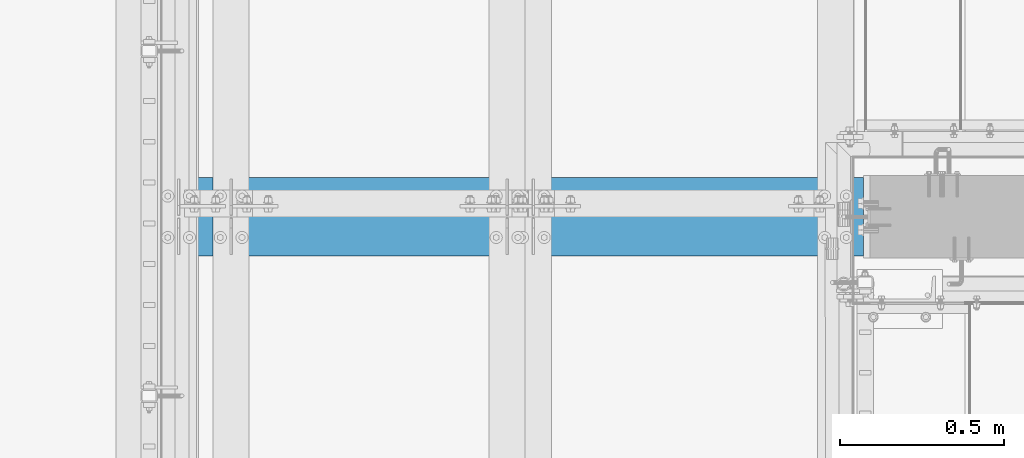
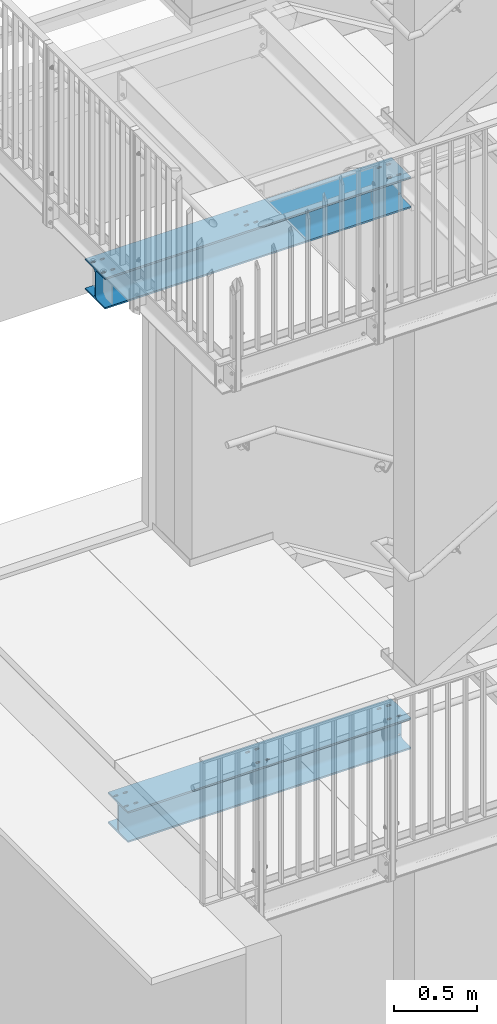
# One storey, part 27 of 410: 2 beams, 28 openings.
"""IFC2X3 building model written with IfcOpenShell, lengths in millimetres."""

from ifc_helpers import new_model, entity, si_unit, converted_unit, point, frame, frame_2d, origin, origin_with_axes, origin_2d, origin_2d_with_axis, place, context, project, spatial, circle_curve, line_curve, trimmed, segment, composite_curve, circle, i_section, outline, extrude, material, element, save


model = new_model("IFC2X3")

# Units and contexts
model_context = context("Model", 3, precision=1e-09, world=origin_with_axes())
ifc_project = project(units=[si_unit("LENGTHUNIT", "METRE", prefix="MILLI"), si_unit("AREAUNIT", "SQUARE_METRE"), si_unit("VOLUMEUNIT", "CUBIC_METRE"), converted_unit("PLANEANGLEUNIT", "DEGREE", entity("IfcPlaneAngleMeasure", 0.01745329), si_unit("PLANEANGLEUNIT", "RADIAN"), dimensions=[0, 0, 0, 0, 0, 0, 0])], contexts=[model_context])

# Site, building, storey
site_placement = place(None, origin_with_axes())
site = spatial("IfcSite", under=ifc_project, at=site_placement, Name="mKR Teilneubau & Sanierung BA1 - Ostfildern", CompositionType="ELEMENT")
building_placement = place(site_placement, origin_with_axes())
building = spatial("IfcBuilding", under=site, at=building_placement, Name="Struktur 1", CompositionType="ELEMENT")
storey_placement = place(building_placement, origin_with_axes())
storey = spatial("IfcBuildingStorey", under=building, at=storey_placement, Name="Default Storey", CompositionType="ELEMENT", Elevation=0.0)

# Beam, openings
ifc_material = material(Name="S235JR")
beam_1_placement = place(None, frame((-1725.0, 16980.0, 3605.0), z_axis=(1.0, 0.0, 0.0), x_axis=(0.0, 1.0, 0.0)))
beam_1 = element("IfcBeam", 1, at=beam_1_placement, inside=storey, material=ifc_material, Name="-", ObjectType="-", context=model_context, shape_type="SweptSolid", body=[
    extrude(i_section(OverallWidth=240.0, OverallDepth=230.0, WebThickness=7.5, FlangeThickness=12.0, FilletRadius=21.0, at=origin_2d()), origin(), (0.0, 0.0, -1.0), 2139.9985317),
])
opening_1_placement = place(beam_1_placement, frame((63.0, 102.5, -2051.9985317), z_axis=(0.0, 1.0, 0.0), x_axis=(0.0, 0.0, 1.0)))
element("IfcOpeningElement", 2, at=opening_1_placement, cuts=beam_1, ObjectType="Opening", context=model_context, shape_type="SweptSolid", body=[
    extrude(outline(composite_curve([segment(trimmed(line_curve((-8.0, -7.001), (1.0, 0.0), 16.0), [point((-8.0, -7.001))], [point((8.0, -7.001))], True, "CARTESIAN"), True, "CONTINUOUS"), segment(trimmed(circle_curve(frame_2d((8.0, 0.0), x_axis=(1.0, 0.0)), 7.001), [point((8.0, -7.001))], [point((8.0, 7.001))], True, "CARTESIAN"), True, "CONTINUOUS"), segment(trimmed(line_curve((8.0, 7.001), (-1.0, 0.0), 16.0), [point((8.0, 7.001))], [point((-8.0, 7.001))], True, "CARTESIAN"), True, "CONTINUOUS"), segment(trimmed(circle_curve(frame_2d((-8.0, 0.0), x_axis=(1.0, 0.0)), 7.001), [point((-8.0, 7.001))], [point((-8.0, -7.001))], True, "CARTESIAN"), True, "CONTINUOUS")], self_intersect=False)), origin(), (0.0, 0.0, 1.0), 13.0),
])
opening_2_placement = place(beam_1_placement, frame((-63.0, 102.5, -1117.9985317), z_axis=(0.0, 1.0, 0.0), x_axis=(0.0, 0.0, 1.0)))
element("IfcOpeningElement", 3, at=opening_2_placement, cuts=beam_1, ObjectType="Opening", context=model_context, shape_type="SweptSolid", body=[
    extrude(outline(composite_curve([segment(trimmed(line_curve((-8.0, -7.001), (1.0, 0.0), 16.0), [point((-8.0, -7.001))], [point((8.0, -7.001))], True, "CARTESIAN"), True, "CONTINUOUS"), segment(trimmed(circle_curve(frame_2d((8.0, 0.0), x_axis=(1.0, 0.0)), 7.001), [point((8.0, -7.001))], [point((8.0, 7.001))], True, "CARTESIAN"), True, "CONTINUOUS"), segment(trimmed(line_curve((8.0, 7.001), (-1.0, 0.0), 16.0), [point((8.0, 7.001))], [point((-8.0, 7.001))], True, "CARTESIAN"), True, "CONTINUOUS"), segment(trimmed(circle_curve(frame_2d((-8.0, 0.0), x_axis=(1.0, 0.0)), 7.001), [point((-8.0, 7.001))], [point((-8.0, -7.001))], True, "CARTESIAN"), True, "CONTINUOUS")], self_intersect=False)), origin(), (0.0, 0.0, 1.0), 13.0),
])
opening_3_placement = place(beam_1_placement, frame((-63.0, 102.5, -117.9985317), z_axis=(0.0, 1.0, 0.0), x_axis=(0.0, 0.0, 1.0)))
element("IfcOpeningElement", 4, at=opening_3_placement, cuts=beam_1, ObjectType="Opening", context=model_context, shape_type="SweptSolid", body=[
    extrude(outline(composite_curve([segment(trimmed(line_curve((-8.0, -7.001), (1.0, 0.0), 16.0), [point((-8.0, -7.001))], [point((8.0, -7.001))], True, "CARTESIAN"), True, "CONTINUOUS"), segment(trimmed(circle_curve(frame_2d((8.0, 0.0), x_axis=(1.0, 0.0)), 7.001), [point((8.0, -7.001))], [point((8.0, 7.001))], True, "CARTESIAN"), True, "CONTINUOUS"), segment(trimmed(line_curve((8.0, 7.001), (-1.0, 0.0), 16.0), [point((8.0, 7.001))], [point((-8.0, 7.001))], True, "CARTESIAN"), True, "CONTINUOUS"), segment(trimmed(circle_curve(frame_2d((-8.0, 0.0), x_axis=(1.0, 0.0)), 7.001), [point((-8.0, 7.001))], [point((-8.0, -7.001))], True, "CARTESIAN"), True, "CONTINUOUS")], self_intersect=False)), origin(), (0.0, 0.0, 1.0), 13.0),
])
opening_4_placement = place(beam_1_placement, frame((63.0, 102.5, -51.9985317), z_axis=(0.0, 1.0, 0.0), x_axis=(0.0, 0.0, 1.0)))
element("IfcOpeningElement", 5, at=opening_4_placement, cuts=beam_1, ObjectType="Opening", context=model_context, shape_type="SweptSolid", body=[
    extrude(outline(composite_curve([segment(trimmed(line_curve((-8.0, -7.001), (1.0, 0.0), 16.0), [point((-8.0, -7.001))], [point((8.0, -7.001))], True, "CARTESIAN"), True, "CONTINUOUS"), segment(trimmed(circle_curve(frame_2d((8.0, 0.0), x_axis=(1.0, 0.0)), 7.001), [point((8.0, -7.001))], [point((8.0, 7.001))], True, "CARTESIAN"), True, "CONTINUOUS"), segment(trimmed(line_curve((8.0, 7.001), (-1.0, 0.0), 16.0), [point((8.0, 7.001))], [point((-8.0, 7.001))], True, "CARTESIAN"), True, "CONTINUOUS"), segment(trimmed(circle_curve(frame_2d((-8.0, 0.0), x_axis=(1.0, 0.0)), 7.001), [point((-8.0, 7.001))], [point((-8.0, -7.001))], True, "CARTESIAN"), True, "CONTINUOUS")], self_intersect=False)), origin(), (0.0, 0.0, 1.0), 13.0),
])
opening_5_placement = place(beam_1_placement, frame((63.0, 102.5, -117.9985317), z_axis=(0.0, 1.0, 0.0), x_axis=(0.0, 0.0, 1.0)))
element("IfcOpeningElement", 6, at=opening_5_placement, cuts=beam_1, ObjectType="Opening", context=model_context, shape_type="SweptSolid", body=[
    extrude(outline(composite_curve([segment(trimmed(line_curve((-8.0, -7.001), (1.0, 0.0), 16.0), [point((-8.0, -7.001))], [point((8.0, -7.001))], True, "CARTESIAN"), True, "CONTINUOUS"), segment(trimmed(circle_curve(frame_2d((8.0, 0.0), x_axis=(1.0, 0.0)), 7.001), [point((8.0, -7.001))], [point((8.0, 7.001))], True, "CARTESIAN"), True, "CONTINUOUS"), segment(trimmed(line_curve((8.0, 7.001), (-1.0, 0.0), 16.0), [point((8.0, 7.001))], [point((-8.0, 7.001))], True, "CARTESIAN"), True, "CONTINUOUS"), segment(trimmed(circle_curve(frame_2d((-8.0, 0.0), x_axis=(1.0, 0.0)), 7.001), [point((-8.0, 7.001))], [point((-8.0, -7.001))], True, "CARTESIAN"), True, "CONTINUOUS")], self_intersect=False)), origin(), (0.0, 0.0, 1.0), 13.0),
])
opening_6_placement = place(beam_1_placement, frame((-63.0, 102.5, -2051.9985317), z_axis=(0.0, 1.0, 0.0), x_axis=(0.0, 0.0, 1.0)))
element("IfcOpeningElement", 7, at=opening_6_placement, cuts=beam_1, ObjectType="Opening", context=model_context, shape_type="SweptSolid", body=[
    extrude(outline(composite_curve([segment(trimmed(line_curve((-8.0, -7.001), (1.0, 0.0), 16.0), [point((-8.0, -7.001))], [point((8.0, -7.001))], True, "CARTESIAN"), True, "CONTINUOUS"), segment(trimmed(circle_curve(frame_2d((8.0, 0.0), x_axis=(1.0, 0.0)), 7.001), [point((8.0, -7.001))], [point((8.0, 7.001))], True, "CARTESIAN"), True, "CONTINUOUS"), segment(trimmed(line_curve((8.0, 7.001), (-1.0, 0.0), 16.0), [point((8.0, 7.001))], [point((-8.0, 7.001))], True, "CARTESIAN"), True, "CONTINUOUS"), segment(trimmed(circle_curve(frame_2d((-8.0, 0.0), x_axis=(1.0, 0.0)), 7.001), [point((-8.0, 7.001))], [point((-8.0, -7.001))], True, "CARTESIAN"), True, "CONTINUOUS")], self_intersect=False)), origin(), (0.0, 0.0, 1.0), 13.0),
])
opening_7_placement = place(beam_1_placement, frame((63.0, 102.5, -2117.9985317), z_axis=(0.0, 1.0, 0.0), x_axis=(0.0, 0.0, 1.0)))
element("IfcOpeningElement", 8, at=opening_7_placement, cuts=beam_1, ObjectType="Opening", context=model_context, shape_type="SweptSolid", body=[
    extrude(outline(composite_curve([segment(trimmed(line_curve((-8.0, -7.001), (1.0, 0.0), 16.0), [point((-8.0, -7.001))], [point((8.0, -7.001))], True, "CARTESIAN"), True, "CONTINUOUS"), segment(trimmed(circle_curve(frame_2d((8.0, 0.0), x_axis=(1.0, 0.0)), 7.001), [point((8.0, -7.001))], [point((8.0, 7.001))], True, "CARTESIAN"), True, "CONTINUOUS"), segment(trimmed(line_curve((8.0, 7.001), (-1.0, 0.0), 16.0), [point((8.0, 7.001))], [point((-8.0, 7.001))], True, "CARTESIAN"), True, "CONTINUOUS"), segment(trimmed(circle_curve(frame_2d((-8.0, 0.0), x_axis=(1.0, 0.0)), 7.001), [point((-8.0, 7.001))], [point((-8.0, -7.001))], True, "CARTESIAN"), True, "CONTINUOUS")], self_intersect=False)), origin(), (0.0, 0.0, 1.0), 13.0),
])
opening_8_placement = place(beam_1_placement, frame((-63.0, 102.5, -1051.9985317), z_axis=(0.0, 1.0, 0.0), x_axis=(0.0, 0.0, 1.0)))
element("IfcOpeningElement", 9, at=opening_8_placement, cuts=beam_1, ObjectType="Opening", context=model_context, shape_type="SweptSolid", body=[
    extrude(outline(composite_curve([segment(trimmed(line_curve((-8.0, -7.001), (1.0, 0.0), 16.0), [point((-8.0, -7.001))], [point((8.0, -7.001))], True, "CARTESIAN"), True, "CONTINUOUS"), segment(trimmed(circle_curve(frame_2d((8.0, 0.0), x_axis=(1.0, 0.0)), 7.001), [point((8.0, -7.001))], [point((8.0, 7.001))], True, "CARTESIAN"), True, "CONTINUOUS"), segment(trimmed(line_curve((8.0, 7.001), (-1.0, 0.0), 16.0), [point((8.0, 7.001))], [point((-8.0, 7.001))], True, "CARTESIAN"), True, "CONTINUOUS"), segment(trimmed(circle_curve(frame_2d((-8.0, 0.0), x_axis=(1.0, 0.0)), 7.001), [point((-8.0, 7.001))], [point((-8.0, -7.001))], True, "CARTESIAN"), True, "CONTINUOUS")], self_intersect=False)), origin(), (0.0, 0.0, 1.0), 13.0),
])
opening_9_placement = place(beam_1_placement, frame((-63.0, 102.5, -51.9985317), z_axis=(0.0, 1.0, 0.0), x_axis=(0.0, 0.0, 1.0)))
element("IfcOpeningElement", 10, at=opening_9_placement, cuts=beam_1, ObjectType="Opening", context=model_context, shape_type="SweptSolid", body=[
    extrude(outline(composite_curve([segment(trimmed(line_curve((-8.0, -7.001), (1.0, 0.0), 16.0), [point((-8.0, -7.001))], [point((8.0, -7.001))], True, "CARTESIAN"), True, "CONTINUOUS"), segment(trimmed(circle_curve(frame_2d((8.0, 0.0), x_axis=(1.0, 0.0)), 7.001), [point((8.0, -7.001))], [point((8.0, 7.001))], True, "CARTESIAN"), True, "CONTINUOUS"), segment(trimmed(line_curve((8.0, 7.001), (-1.0, 0.0), 16.0), [point((8.0, 7.001))], [point((-8.0, 7.001))], True, "CARTESIAN"), True, "CONTINUOUS"), segment(trimmed(circle_curve(frame_2d((-8.0, 0.0), x_axis=(1.0, 0.0)), 7.001), [point((-8.0, 7.001))], [point((-8.0, -7.001))], True, "CARTESIAN"), True, "CONTINUOUS")], self_intersect=False)), origin(), (0.0, 0.0, 1.0), 13.0),
])
opening_10_placement = place(beam_1_placement, frame((63.0, 102.5, -1117.9985317), z_axis=(0.0, 1.0, 0.0), x_axis=(0.0, 0.0, 1.0)))
element("IfcOpeningElement", 11, at=opening_10_placement, cuts=beam_1, ObjectType="Opening", context=model_context, shape_type="SweptSolid", body=[
    extrude(outline(composite_curve([segment(trimmed(line_curve((-8.0, -7.001), (1.0, 0.0), 16.0), [point((-8.0, -7.001))], [point((8.0, -7.001))], True, "CARTESIAN"), True, "CONTINUOUS"), segment(trimmed(circle_curve(frame_2d((8.0, 0.0), x_axis=(1.0, 0.0)), 7.001), [point((8.0, -7.001))], [point((8.0, 7.001))], True, "CARTESIAN"), True, "CONTINUOUS"), segment(trimmed(line_curve((8.0, 7.001), (-1.0, 0.0), 16.0), [point((8.0, 7.001))], [point((-8.0, 7.001))], True, "CARTESIAN"), True, "CONTINUOUS"), segment(trimmed(circle_curve(frame_2d((-8.0, 0.0), x_axis=(1.0, 0.0)), 7.001), [point((-8.0, 7.001))], [point((-8.0, -7.001))], True, "CARTESIAN"), True, "CONTINUOUS")], self_intersect=False)), origin(), (0.0, 0.0, 1.0), 13.0),
])
opening_11_placement = place(beam_1_placement, frame((63.0, 102.5, -1051.9985317), z_axis=(0.0, 1.0, 0.0), x_axis=(0.0, 0.0, 1.0)))
element("IfcOpeningElement", 12, at=opening_11_placement, cuts=beam_1, ObjectType="Opening", context=model_context, shape_type="SweptSolid", body=[
    extrude(outline(composite_curve([segment(trimmed(line_curve((-8.0, -7.001), (1.0, 0.0), 16.0), [point((-8.0, -7.001))], [point((8.0, -7.001))], True, "CARTESIAN"), True, "CONTINUOUS"), segment(trimmed(circle_curve(frame_2d((8.0, 0.0), x_axis=(1.0, 0.0)), 7.001), [point((8.0, -7.001))], [point((8.0, 7.001))], True, "CARTESIAN"), True, "CONTINUOUS"), segment(trimmed(line_curve((8.0, 7.001), (-1.0, 0.0), 16.0), [point((8.0, 7.001))], [point((-8.0, 7.001))], True, "CARTESIAN"), True, "CONTINUOUS"), segment(trimmed(circle_curve(frame_2d((-8.0, 0.0), x_axis=(1.0, 0.0)), 7.001), [point((-8.0, 7.001))], [point((-8.0, -7.001))], True, "CARTESIAN"), True, "CONTINUOUS")], self_intersect=False)), origin(), (0.0, 0.0, 1.0), 13.0),
])
opening_12_placement = place(beam_1_placement, frame((-63.0, 102.5, -2117.9985317), z_axis=(0.0, 1.0, 0.0), x_axis=(0.0, 0.0, 1.0)))
element("IfcOpeningElement", 13, at=opening_12_placement, cuts=beam_1, ObjectType="Opening", context=model_context, shape_type="SweptSolid", body=[
    extrude(outline(composite_curve([segment(trimmed(line_curve((-8.0, -7.001), (1.0, 0.0), 16.0), [point((-8.0, -7.001))], [point((8.0, -7.001))], True, "CARTESIAN"), True, "CONTINUOUS"), segment(trimmed(circle_curve(frame_2d((8.0, 0.0), x_axis=(1.0, 0.0)), 7.001), [point((8.0, -7.001))], [point((8.0, 7.001))], True, "CARTESIAN"), True, "CONTINUOUS"), segment(trimmed(line_curve((8.0, 7.001), (-1.0, 0.0), 16.0), [point((8.0, 7.001))], [point((-8.0, 7.001))], True, "CARTESIAN"), True, "CONTINUOUS"), segment(trimmed(circle_curve(frame_2d((-8.0, 0.0), x_axis=(1.0, 0.0)), 7.001), [point((-8.0, 7.001))], [point((-8.0, -7.001))], True, "CARTESIAN"), True, "CONTINUOUS")], self_intersect=False)), origin(), (0.0, 0.0, 1.0), 13.0),
])
opening_13_placement = place(beam_1_placement, frame((-4.25, 73.0, -15.0), z_axis=(1.0, 0.0, 0.0), x_axis=(0.0, 0.0, -1.0)))
element("IfcOpeningElement", 14, at=opening_13_placement, cuts=beam_1, ObjectType="Opening", context=model_context, shape_type="SweptSolid", body=[
    extrude(circle(Radius=7.001, at=origin_2d_with_axis()), origin(), (0.0, 0.0, 1.0), 8.5),
])
opening_14_placement = place(beam_1_placement, frame((-4.25, -73.0, -15.0), z_axis=(1.0, 0.0, 0.0), x_axis=(0.0, 0.0, -1.0)))
element("IfcOpeningElement", 15, at=opening_14_placement, cuts=beam_1, ObjectType="Opening", context=model_context, shape_type="SweptSolid", body=[
    extrude(circle(Radius=7.001, at=origin_2d_with_axis()), origin(), (0.0, 0.0, 1.0), 8.5),
])

beam_2_placement = place(None, frame((-1725.0, 16980.0, -395.0), z_axis=(1.0, 0.0, 0.0), x_axis=(0.0, 1.0, 0.0)))
beam_2 = element("IfcBeam", 16, at=beam_2_placement, inside=storey, material=ifc_material, Name="-", ObjectType="-", context=model_context, shape_type="SweptSolid", body=[
    extrude(i_section(OverallWidth=240.0, OverallDepth=230.0, WebThickness=7.5, FlangeThickness=12.0, FilletRadius=21.0, at=origin_2d()), origin(), (0.0, 0.0, -1.0), 1979.9985317),
])
opening_15_placement = place(beam_2_placement, frame((63.0, 102.5, -51.9985317), z_axis=(0.0, 1.0, 0.0), x_axis=(0.0, 0.0, 1.0)))
element("IfcOpeningElement", 17, at=opening_15_placement, cuts=beam_2, ObjectType="Opening", context=model_context, shape_type="SweptSolid", body=[
    extrude(outline(composite_curve([segment(trimmed(line_curve((-8.0, -7.001), (1.0, 0.0), 16.0), [point((-8.0, -7.001))], [point((8.0, -7.001))], True, "CARTESIAN"), True, "CONTINUOUS"), segment(trimmed(circle_curve(frame_2d((8.0, 0.0), x_axis=(1.0, 0.0)), 7.001), [point((8.0, -7.001))], [point((8.0, 7.001))], True, "CARTESIAN"), True, "CONTINUOUS"), segment(trimmed(line_curve((8.0, 7.001), (-1.0, 0.0), 16.0), [point((8.0, 7.001))], [point((-8.0, 7.001))], True, "CARTESIAN"), True, "CONTINUOUS"), segment(trimmed(circle_curve(frame_2d((-8.0, 0.0), x_axis=(1.0, 0.0)), 7.001), [point((-8.0, 7.001))], [point((-8.0, -7.001))], True, "CARTESIAN"), True, "CONTINUOUS")], self_intersect=False)), origin(), (0.0, 0.0, 1.0), 13.0),
])
opening_16_placement = place(beam_2_placement, frame((63.0, 102.5, -971.9985317), z_axis=(0.0, 1.0, 0.0), x_axis=(0.0, 0.0, 1.0)))
element("IfcOpeningElement", 18, at=opening_16_placement, cuts=beam_2, ObjectType="Opening", context=model_context, shape_type="SweptSolid", body=[
    extrude(outline(composite_curve([segment(trimmed(line_curve((-8.0, -7.001), (1.0, 0.0), 16.0), [point((-8.0, -7.001))], [point((8.0, -7.001))], True, "CARTESIAN"), True, "CONTINUOUS"), segment(trimmed(circle_curve(frame_2d((8.0, 0.0), x_axis=(1.0, 0.0)), 7.001), [point((8.0, -7.001))], [point((8.0, 7.001))], True, "CARTESIAN"), True, "CONTINUOUS"), segment(trimmed(line_curve((8.0, 7.001), (-1.0, 0.0), 16.0), [point((8.0, 7.001))], [point((-8.0, 7.001))], True, "CARTESIAN"), True, "CONTINUOUS"), segment(trimmed(circle_curve(frame_2d((-8.0, 0.0), x_axis=(1.0, 0.0)), 7.001), [point((-8.0, 7.001))], [point((-8.0, -7.001))], True, "CARTESIAN"), True, "CONTINUOUS")], self_intersect=False)), origin(), (0.0, 0.0, 1.0), 13.0),
])
opening_17_placement = place(beam_2_placement, frame((63.0, 102.5, -1037.9985317), z_axis=(0.0, 1.0, 0.0), x_axis=(0.0, 0.0, 1.0)))
element("IfcOpeningElement", 19, at=opening_17_placement, cuts=beam_2, ObjectType="Opening", context=model_context, shape_type="SweptSolid", body=[
    extrude(outline(composite_curve([segment(trimmed(line_curve((-8.0, -7.001), (1.0, 0.0), 16.0), [point((-8.0, -7.001))], [point((8.0, -7.001))], True, "CARTESIAN"), True, "CONTINUOUS"), segment(trimmed(circle_curve(frame_2d((8.0, 0.0), x_axis=(1.0, 0.0)), 7.001), [point((8.0, -7.001))], [point((8.0, 7.001))], True, "CARTESIAN"), True, "CONTINUOUS"), segment(trimmed(line_curve((8.0, 7.001), (-1.0, 0.0), 16.0), [point((8.0, 7.001))], [point((-8.0, 7.001))], True, "CARTESIAN"), True, "CONTINUOUS"), segment(trimmed(circle_curve(frame_2d((-8.0, 0.0), x_axis=(1.0, 0.0)), 7.001), [point((-8.0, 7.001))], [point((-8.0, -7.001))], True, "CARTESIAN"), True, "CONTINUOUS")], self_intersect=False)), origin(), (0.0, 0.0, 1.0), 13.0),
])
opening_18_placement = place(beam_2_placement, frame((-63.0, 102.5, -117.9985317), z_axis=(0.0, 1.0, 0.0), x_axis=(0.0, 0.0, 1.0)))
element("IfcOpeningElement", 20, at=opening_18_placement, cuts=beam_2, ObjectType="Opening", context=model_context, shape_type="SweptSolid", body=[
    extrude(outline(composite_curve([segment(trimmed(line_curve((-8.0, -7.001), (1.0, 0.0), 16.0), [point((-8.0, -7.001))], [point((8.0, -7.001))], True, "CARTESIAN"), True, "CONTINUOUS"), segment(trimmed(circle_curve(frame_2d((8.0, 0.0), x_axis=(1.0, 0.0)), 7.001), [point((8.0, -7.001))], [point((8.0, 7.001))], True, "CARTESIAN"), True, "CONTINUOUS"), segment(trimmed(line_curve((8.0, 7.001), (-1.0, 0.0), 16.0), [point((8.0, 7.001))], [point((-8.0, 7.001))], True, "CARTESIAN"), True, "CONTINUOUS"), segment(trimmed(circle_curve(frame_2d((-8.0, 0.0), x_axis=(1.0, 0.0)), 7.001), [point((-8.0, 7.001))], [point((-8.0, -7.001))], True, "CARTESIAN"), True, "CONTINUOUS")], self_intersect=False)), origin(), (0.0, 0.0, 1.0), 13.0),
])
opening_19_placement = place(beam_2_placement, frame((-63.0, 102.5, -971.9985317), z_axis=(0.0, 1.0, 0.0), x_axis=(0.0, 0.0, 1.0)))
element("IfcOpeningElement", 21, at=opening_19_placement, cuts=beam_2, ObjectType="Opening", context=model_context, shape_type="SweptSolid", body=[
    extrude(outline(composite_curve([segment(trimmed(line_curve((-8.0, -7.001), (1.0, 0.0), 16.0), [point((-8.0, -7.001))], [point((8.0, -7.001))], True, "CARTESIAN"), True, "CONTINUOUS"), segment(trimmed(circle_curve(frame_2d((8.0, 0.0), x_axis=(1.0, 0.0)), 7.001), [point((8.0, -7.001))], [point((8.0, 7.001))], True, "CARTESIAN"), True, "CONTINUOUS"), segment(trimmed(line_curve((8.0, 7.001), (-1.0, 0.0), 16.0), [point((8.0, 7.001))], [point((-8.0, 7.001))], True, "CARTESIAN"), True, "CONTINUOUS"), segment(trimmed(circle_curve(frame_2d((-8.0, 0.0), x_axis=(1.0, 0.0)), 7.001), [point((-8.0, 7.001))], [point((-8.0, -7.001))], True, "CARTESIAN"), True, "CONTINUOUS")], self_intersect=False)), origin(), (0.0, 0.0, 1.0), 13.0),
])
opening_20_placement = place(beam_2_placement, frame((63.0, 102.5, -117.9985317), z_axis=(0.0, 1.0, 0.0), x_axis=(0.0, 0.0, 1.0)))
element("IfcOpeningElement", 22, at=opening_20_placement, cuts=beam_2, ObjectType="Opening", context=model_context, shape_type="SweptSolid", body=[
    extrude(outline(composite_curve([segment(trimmed(line_curve((-8.0, -7.001), (1.0, 0.0), 16.0), [point((-8.0, -7.001))], [point((8.0, -7.001))], True, "CARTESIAN"), True, "CONTINUOUS"), segment(trimmed(circle_curve(frame_2d((8.0, 0.0), x_axis=(1.0, 0.0)), 7.001), [point((8.0, -7.001))], [point((8.0, 7.001))], True, "CARTESIAN"), True, "CONTINUOUS"), segment(trimmed(line_curve((8.0, 7.001), (-1.0, 0.0), 16.0), [point((8.0, 7.001))], [point((-8.0, 7.001))], True, "CARTESIAN"), True, "CONTINUOUS"), segment(trimmed(circle_curve(frame_2d((-8.0, 0.0), x_axis=(1.0, 0.0)), 7.001), [point((-8.0, 7.001))], [point((-8.0, -7.001))], True, "CARTESIAN"), True, "CONTINUOUS")], self_intersect=False)), origin(), (0.0, 0.0, 1.0), 13.0),
])
opening_21_placement = place(beam_2_placement, frame((-63.0, 102.5, -51.9985317), z_axis=(0.0, 1.0, 0.0), x_axis=(0.0, 0.0, 1.0)))
element("IfcOpeningElement", 23, at=opening_21_placement, cuts=beam_2, ObjectType="Opening", context=model_context, shape_type="SweptSolid", body=[
    extrude(outline(composite_curve([segment(trimmed(line_curve((-8.0, -7.001), (1.0, 0.0), 16.0), [point((-8.0, -7.001))], [point((8.0, -7.001))], True, "CARTESIAN"), True, "CONTINUOUS"), segment(trimmed(circle_curve(frame_2d((8.0, 0.0), x_axis=(1.0, 0.0)), 7.001), [point((8.0, -7.001))], [point((8.0, 7.001))], True, "CARTESIAN"), True, "CONTINUOUS"), segment(trimmed(line_curve((8.0, 7.001), (-1.0, 0.0), 16.0), [point((8.0, 7.001))], [point((-8.0, 7.001))], True, "CARTESIAN"), True, "CONTINUOUS"), segment(trimmed(circle_curve(frame_2d((-8.0, 0.0), x_axis=(1.0, 0.0)), 7.001), [point((-8.0, 7.001))], [point((-8.0, -7.001))], True, "CARTESIAN"), True, "CONTINUOUS")], self_intersect=False)), origin(), (0.0, 0.0, 1.0), 13.0),
])
opening_22_placement = place(beam_2_placement, frame((-63.0, 102.5, -1957.9985317), z_axis=(0.0, 1.0, 0.0), x_axis=(0.0, 0.0, 1.0)))
element("IfcOpeningElement", 24, at=opening_22_placement, cuts=beam_2, ObjectType="Opening", context=model_context, shape_type="SweptSolid", body=[
    extrude(outline(composite_curve([segment(trimmed(line_curve((-8.0, -7.001), (1.0, 0.0), 16.0), [point((-8.0, -7.001))], [point((8.0, -7.001))], True, "CARTESIAN"), True, "CONTINUOUS"), segment(trimmed(circle_curve(frame_2d((8.0, 0.0), x_axis=(1.0, 0.0)), 7.001), [point((8.0, -7.001))], [point((8.0, 7.001))], True, "CARTESIAN"), True, "CONTINUOUS"), segment(trimmed(line_curve((8.0, 7.001), (-1.0, 0.0), 16.0), [point((8.0, 7.001))], [point((-8.0, 7.001))], True, "CARTESIAN"), True, "CONTINUOUS"), segment(trimmed(circle_curve(frame_2d((-8.0, 0.0), x_axis=(1.0, 0.0)), 7.001), [point((-8.0, 7.001))], [point((-8.0, -7.001))], True, "CARTESIAN"), True, "CONTINUOUS")], self_intersect=False)), origin(), (0.0, 0.0, 1.0), 13.0),
])
opening_23_placement = place(beam_2_placement, frame((63.0, 102.5, -1957.9985317), z_axis=(0.0, 1.0, 0.0), x_axis=(0.0, 0.0, 1.0)))
element("IfcOpeningElement", 25, at=opening_23_placement, cuts=beam_2, ObjectType="Opening", context=model_context, shape_type="SweptSolid", body=[
    extrude(outline(composite_curve([segment(trimmed(line_curve((-8.0, -7.001), (1.0, 0.0), 16.0), [point((-8.0, -7.001))], [point((8.0, -7.001))], True, "CARTESIAN"), True, "CONTINUOUS"), segment(trimmed(circle_curve(frame_2d((8.0, 0.0), x_axis=(1.0, 0.0)), 7.001), [point((8.0, -7.001))], [point((8.0, 7.001))], True, "CARTESIAN"), True, "CONTINUOUS"), segment(trimmed(line_curve((8.0, 7.001), (-1.0, 0.0), 16.0), [point((8.0, 7.001))], [point((-8.0, 7.001))], True, "CARTESIAN"), True, "CONTINUOUS"), segment(trimmed(circle_curve(frame_2d((-8.0, 0.0), x_axis=(1.0, 0.0)), 7.001), [point((-8.0, 7.001))], [point((-8.0, -7.001))], True, "CARTESIAN"), True, "CONTINUOUS")], self_intersect=False)), origin(), (0.0, 0.0, 1.0), 13.0),
])
opening_24_placement = place(beam_2_placement, frame((63.0, 102.5, -1891.9985317), z_axis=(0.0, 1.0, 0.0), x_axis=(0.0, 0.0, 1.0)))
element("IfcOpeningElement", 26, at=opening_24_placement, cuts=beam_2, ObjectType="Opening", context=model_context, shape_type="SweptSolid", body=[
    extrude(outline(composite_curve([segment(trimmed(line_curve((-8.0, -7.001), (1.0, 0.0), 16.0), [point((-8.0, -7.001))], [point((8.0, -7.001))], True, "CARTESIAN"), True, "CONTINUOUS"), segment(trimmed(circle_curve(frame_2d((8.0, 0.0), x_axis=(1.0, 0.0)), 7.001), [point((8.0, -7.001))], [point((8.0, 7.001))], True, "CARTESIAN"), True, "CONTINUOUS"), segment(trimmed(line_curve((8.0, 7.001), (-1.0, 0.0), 16.0), [point((8.0, 7.001))], [point((-8.0, 7.001))], True, "CARTESIAN"), True, "CONTINUOUS"), segment(trimmed(circle_curve(frame_2d((-8.0, 0.0), x_axis=(1.0, 0.0)), 7.001), [point((-8.0, 7.001))], [point((-8.0, -7.001))], True, "CARTESIAN"), True, "CONTINUOUS")], self_intersect=False)), origin(), (0.0, 0.0, 1.0), 13.0),
])
opening_25_placement = place(beam_2_placement, frame((-63.0, 102.5, -1037.9985317), z_axis=(0.0, 1.0, 0.0), x_axis=(0.0, 0.0, 1.0)))
element("IfcOpeningElement", 27, at=opening_25_placement, cuts=beam_2, ObjectType="Opening", context=model_context, shape_type="SweptSolid", body=[
    extrude(outline(composite_curve([segment(trimmed(line_curve((-8.0, -7.001), (1.0, 0.0), 16.0), [point((-8.0, -7.001))], [point((8.0, -7.001))], True, "CARTESIAN"), True, "CONTINUOUS"), segment(trimmed(circle_curve(frame_2d((8.0, 0.0), x_axis=(1.0, 0.0)), 7.001), [point((8.0, -7.001))], [point((8.0, 7.001))], True, "CARTESIAN"), True, "CONTINUOUS"), segment(trimmed(line_curve((8.0, 7.001), (-1.0, 0.0), 16.0), [point((8.0, 7.001))], [point((-8.0, 7.001))], True, "CARTESIAN"), True, "CONTINUOUS"), segment(trimmed(circle_curve(frame_2d((-8.0, 0.0), x_axis=(1.0, 0.0)), 7.001), [point((-8.0, 7.001))], [point((-8.0, -7.001))], True, "CARTESIAN"), True, "CONTINUOUS")], self_intersect=False)), origin(), (0.0, 0.0, 1.0), 13.0),
])
opening_26_placement = place(beam_2_placement, frame((-63.0, 102.5, -1891.9985317), z_axis=(0.0, 1.0, 0.0), x_axis=(0.0, 0.0, 1.0)))
element("IfcOpeningElement", 28, at=opening_26_placement, cuts=beam_2, ObjectType="Opening", context=model_context, shape_type="SweptSolid", body=[
    extrude(outline(composite_curve([segment(trimmed(line_curve((-8.0, -7.001), (1.0, 0.0), 16.0), [point((-8.0, -7.001))], [point((8.0, -7.001))], True, "CARTESIAN"), True, "CONTINUOUS"), segment(trimmed(circle_curve(frame_2d((8.0, 0.0), x_axis=(1.0, 0.0)), 7.001), [point((8.0, -7.001))], [point((8.0, 7.001))], True, "CARTESIAN"), True, "CONTINUOUS"), segment(trimmed(line_curve((8.0, 7.001), (-1.0, 0.0), 16.0), [point((8.0, 7.001))], [point((-8.0, 7.001))], True, "CARTESIAN"), True, "CONTINUOUS"), segment(trimmed(circle_curve(frame_2d((-8.0, 0.0), x_axis=(1.0, 0.0)), 7.001), [point((-8.0, 7.001))], [point((-8.0, -7.001))], True, "CARTESIAN"), True, "CONTINUOUS")], self_intersect=False)), origin(), (0.0, 0.0, 1.0), 13.0),
])
opening_27_placement = place(beam_2_placement, frame((-4.25, 73.0, -15.0), z_axis=(1.0, 0.0, 0.0), x_axis=(0.0, 0.0, -1.0)))
element("IfcOpeningElement", 29, at=opening_27_placement, cuts=beam_2, ObjectType="Opening", context=model_context, shape_type="SweptSolid", body=[
    extrude(circle(Radius=7.001, at=origin_2d_with_axis()), origin(), (0.0, 0.0, 1.0), 8.5),
])
opening_28_placement = place(beam_2_placement, frame((-4.25, -73.0, -15.0), z_axis=(1.0, 0.0, 0.0), x_axis=(0.0, 0.0, -1.0)))
element("IfcOpeningElement", 30, at=opening_28_placement, cuts=beam_2, ObjectType="Opening", context=model_context, shape_type="SweptSolid", body=[
    extrude(circle(Radius=7.001, at=origin_2d_with_axis()), origin(), (0.0, 0.0, 1.0), 8.5),
])

save(model, "model.ifc")
